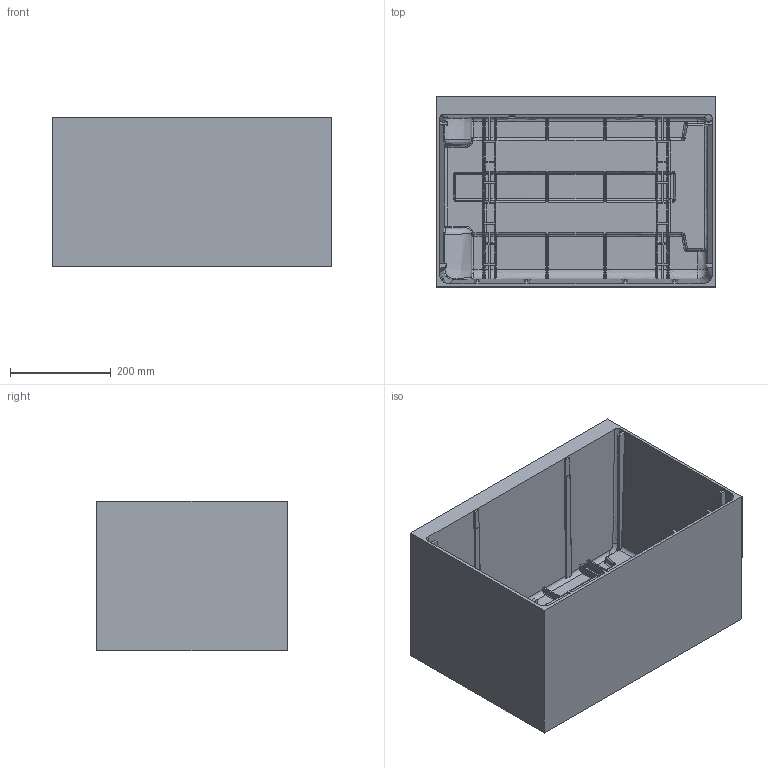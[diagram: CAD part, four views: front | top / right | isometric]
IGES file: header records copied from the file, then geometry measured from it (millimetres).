
Start section: SolidWorks IGES file using analytic representation for surfaces
Global section: file name: C:\working\0450 GMTK\0450 Case, Bottom, OEM.IGS; native system: SolidWorks 2007; preprocessor: SolidWorks 2007; author: darato; date: 090129.165617; units: inch
Bounding box: 553.92 x 376.85 x 297.18 mm (x, y, z)
Surface area: 1586389.9 mm2 (no closed solid volume)
Topology: 0 solids, 0 shells, 1070 faces, 9401 edges, 9374 vertices
Faces by surface type: bspline 631, revolution 439
